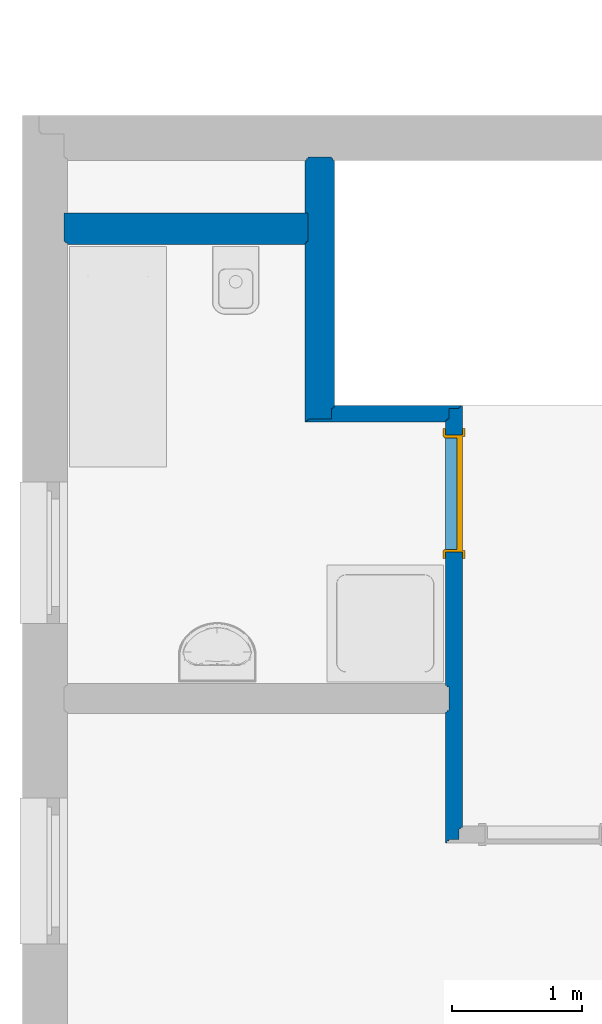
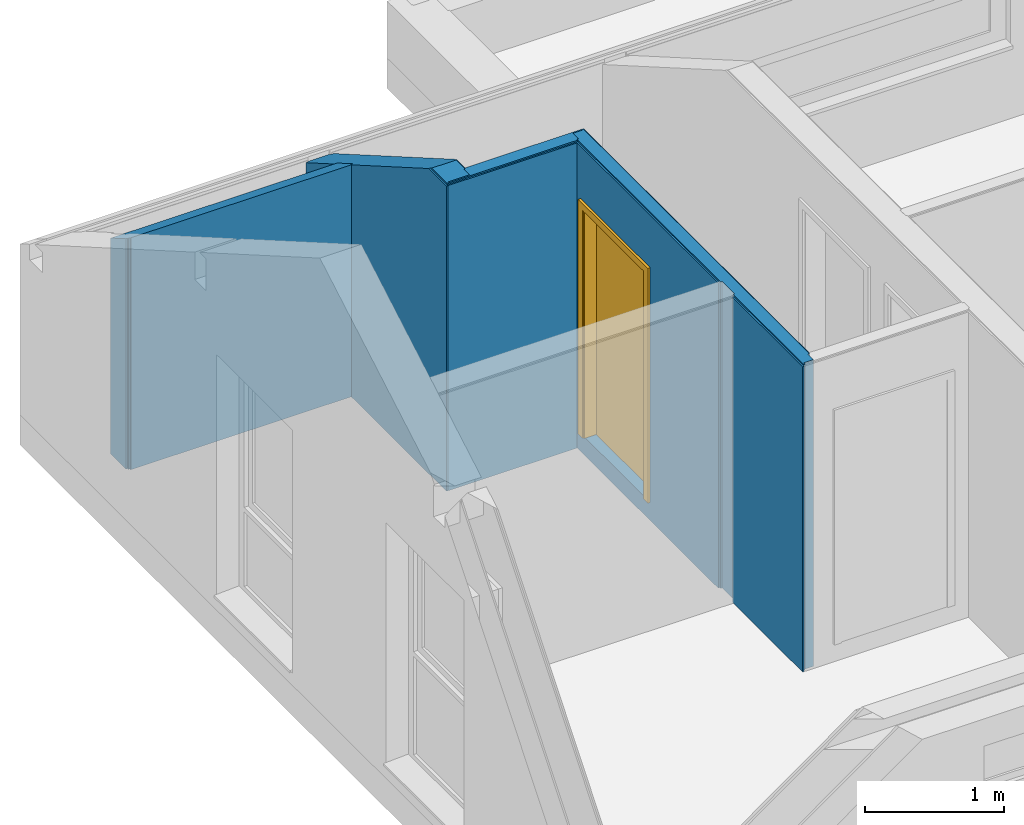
# One storey, part 4 of 7: 4 walls, 1 door, 1 opening.
"""IFC2X3 building model written with IfcOpenShell, lengths in millimetres."""

from ifc_helpers import new_model, entity, si_unit, converted_unit, derived_unit, money_unit, direction, frame, origin_with_axes, place, context, subcontext, project, spatial, faceted_brep, material, material_list, type_object, element, fill, save


model = new_model("IFC2X3")

# Units and contexts
model_context = context("Model", 3, precision=0.01, world=origin_with_axes(), true_north=direction((0.0, 1.0)))
body_context = subcontext(model_context, "Body", "Model", "MODEL_VIEW")
ifc_project = project(units=[si_unit("LENGTHUNIT", "METRE", prefix="MILLI"), si_unit("AREAUNIT", "SQUARE_METRE"), si_unit("VOLUMEUNIT", "CUBIC_METRE"), converted_unit("PLANEANGLEUNIT", "DEGREE", entity("IfcPlaneAngleMeasure", 0.0174532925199), si_unit("PLANEANGLEUNIT", "RADIAN"), dimensions=[0, 0, 0, 0, 0, 0, 0]), si_unit("SOLIDANGLEUNIT", "STERADIAN"), money_unit("USD"), converted_unit("TIMEUNIT", "Year", entity("IfcTimeMeasure", 31556926.0), si_unit("TIMEUNIT", "SECOND"), dimensions=[0, 0, 1, 0, 0, 0, 0]), si_unit("MASSUNIT", "GRAM", prefix="KILO"), si_unit("THERMODYNAMICTEMPERATUREUNIT", "DEGREE_CELSIUS"), si_unit("LUMINOUSINTENSITYUNIT", "LUMEN"), si_unit("ENERGYUNIT", "JOULE", prefix="MEGA"), derived_unit("THERMALCONDUCTANCEUNIT", [(si_unit("POWERUNIT", "WATT"), 1), (si_unit("LENGTHUNIT", "METRE"), -1), (si_unit("THERMODYNAMICTEMPERATUREUNIT", "KELVIN"), -1)]), derived_unit("SPECIFICHEATCAPACITYUNIT", [(si_unit("ENERGYUNIT", "JOULE"), 1), (si_unit("MASSUNIT", "GRAM", prefix="KILO"), -1), (si_unit("THERMODYNAMICTEMPERATUREUNIT", "KELVIN"), -1)]), derived_unit("MASSDENSITYUNIT", [(si_unit("MASSUNIT", "GRAM", prefix="KILO"), 1), (si_unit("VOLUMEUNIT", "CUBIC_METRE"), -1)])], contexts=[model_context])

# Site, building, storey
site_placement = place(None, origin_with_axes())
site = spatial("IfcSite", under=ifc_project, at=site_placement, Name="Lokalizacja", CompositionType="ELEMENT")
building_placement = place(site_placement, origin_with_axes())
building = spatial("IfcBuilding", under=site, at=building_placement, Name="Budynek", CompositionType="ELEMENT")
storey_placement = place(building_placement, frame((0.0, 0.0, 2954.0), z_axis=(0.0, 0.0, 1.0), x_axis=(1.0, 0.0, 0.0)))
storey = spatial("IfcBuildingStorey", under=building, at=storey_placement, Name="DG", CompositionType="ELEMENT", Elevation=2954.0)

# Wall
ifc_material_1 = material(Name="Płyta GK")
ifc_material_2 = material(Name="Płyta OSB")
ifc_material_3 = material(Name="Drewno konstrukcyjne")
ifc_material_list_1 = material_list([ifc_material_1, ifc_material_2, ifc_material_3, ifc_material_2, ifc_material_1])
wall_type_1 = type_object("IfcWallType", Name="022- _dan_SD_130 130", PredefinedType="NOTDEFINED")
wall_1_placement = place(storey_placement, frame((3044.78748997, -1888.1417, -160.0), z_axis=(0.0, 0.0, 1.0), x_axis=(-1.0, 0.0, 0.0)))
element("IfcWall", 1, at=wall_1_placement, inside=storey, type_object=wall_type_1, material=ifc_material_list_1, Name="SW1", context=body_context, shape_type="Brep", body=[
    faceted_brep([(1201.78748997, 117.0, 2678.0), (130.0, 117.0, 2678.0), (130.0, 117.0, 0.0), (1201.78748997, 117.0, 0.0), (130.0, 130.0, 2678.0), (1201.78748997, 130.0, 2678.0), (130.0, 130.0, 0.0), (1201.78748997, 130.0, 0.0)], [[[0, 1, 2, 3]], [[4, 1, 0, 5]], [[1, 4, 6, 2]], [[7, 3, 2, 6]], [[5, 0, 3, 7]], [[4, 5, 7, 6]]]),
    faceted_brep([(1189.78748997, 117.0, 2690.0), (117.0, 117.0, 2690.0), (117.0, 105.0, 2690.0), (1189.78748997, 105.0, 2690.0), (1189.78748997, 117.0, 0.0), (117.0, 117.0, 0.0), (117.0, 105.0, 0.0), (1189.78748997, 105.0, 0.0)], [[[0, 1, 2, 3]], [[4, 5, 1, 0]], [[2, 1, 5, 6]], [[3, 2, 6, 7]], [[3, 7, 4, 0]], [[7, 6, 5, 4]]]),
    faceted_brep([(1009.78748997, 105.0, 2690.0), (105.0, 105.0, 2690.0), (105.0, 25.0, 2690.0), (1009.78748997, 25.0, 2690.0), (1009.78748997, 105.0, 0.0), (105.0, 105.0, 0.0), (105.0, 25.0, 0.0), (1009.78748997, 25.0, 0.0)], [[[0, 1, 2, 3]], [[4, 5, 1, 0]], [[2, 1, 5, 6]], [[3, 2, 6, 7]], [[3, 7, 4, 0]], [[7, 6, 5, 4]]]),
    faceted_brep([(997.787489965, 25.0, 2690.0), (25.0, 25.0, 2690.0), (25.0, 13.0, 2690.0), (997.787489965, 13.0, 2690.0), (997.787489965, 25.0, 0.0), (25.0, 25.0, 0.0), (25.0, 13.0, 0.0), (997.787489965, 13.0, 0.0)], [[[0, 1, 2, 3]], [[4, 5, 1, 0]], [[2, 1, 5, 6]], [[3, 2, 6, 7]], [[3, 7, 4, 0]], [[7, 6, 5, 4]]]),
    faceted_brep([(984.787489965, 0.0, 2678.0), (13.0, 0.0, 2678.0), (13.0, 0.0, 0.0), (984.787489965, 0.0, 0.0), (13.0, 13.0, 2678.0), (984.787489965, 13.0, 2678.0), (13.0, 13.0, 0.0), (984.787489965, 13.0, 0.0)], [[[0, 1, 2, 3]], [[4, 1, 0, 5]], [[1, 4, 6, 2]], [[7, 3, 2, 6]], [[5, 0, 3, 7]], [[4, 5, 7, 6]]]),
])

# Wall, opening, door
wall_2_placement = place(storey_placement, frame((3044.78748997, -5129.99907417, -160.0), z_axis=(0.0, 0.0, 1.0), x_axis=(0.0, 1.0, 0.0)))
wall_2 = element("IfcWall", 2, at=wall_2_placement, inside=storey, type_object=wall_type_1, material=ifc_material_list_1, Name="SW1", context=body_context, shape_type="Brep", body=[
    faceted_brep([(879.471077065, 130.0, 2678.0), (879.471077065, 117.0, 2678.0), (879.471077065, 117.0, 0.0), (879.471077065, 130.0, 0.0), (-130.0, 117.0, 2678.0), (-130.0, 130.0, 2678.0), (-130.0, 117.0, 0.0), (-130.0, 130.0, 0.0)], [[[0, 1, 2, 3]], [[4, 1, 0, 5]], [[1, 4, 6, 2]], [[3, 2, 6, 7]], [[5, 0, 3, 7]], [[4, 5, 7, 6]]]),
    faceted_brep([(3124.85737417, 130.0, 2678.0), (3124.85737417, 117.0, 2678.0), (3124.85737417, 117.0, 0.0), (3124.85737417, 130.0, 0.0), (1083.47107706, 117.0, 2678.0), (1083.47107706, 130.0, 2678.0), (1083.47107706, 117.0, 0.0), (1083.47107706, 130.0, 0.0)], [[[0, 1, 2, 3]], [[4, 1, 0, 5]], [[1, 4, 6, 2]], [[3, 2, 6, 7]], [[5, 0, 3, 7]], [[4, 5, 7, 6]]]),
    faceted_brep([(891.471077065, 117.0, 2690.0), (-117.0, 117.0, 2690.0), (-117.0, 105.0, 2690.0), (891.471077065, 105.0, 2690.0), (891.471077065, 117.0, 0.0), (-117.0, 117.0, 0.0), (-117.0, 105.0, 0.0), (891.471077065, 105.0, 0.0)], [[[0, 1, 2, 3]], [[4, 5, 1, 0]], [[2, 1, 5, 6]], [[3, 2, 6, 7]], [[3, 7, 4, 0]], [[7, 6, 5, 4]]]),
    faceted_brep([(3136.85737417, 117.0, 2690.0), (1071.47107706, 117.0, 2690.0), (1071.47107706, 105.0, 2690.0), (3136.85737417, 105.0, 2690.0), (3136.85737417, 117.0, 0.0), (1071.47107706, 117.0, 0.0), (1071.47107706, 105.0, 0.0), (3136.85737417, 105.0, 0.0)], [[[0, 1, 2, 3]], [[4, 5, 1, 0]], [[2, 1, 5, 6]], [[3, 2, 6, 7]], [[3, 7, 4, 0]], [[7, 6, 5, 4]]]),
    faceted_brep([(3216.85737417, 105.0, 2690.0), (-105.0, 105.0, 2690.0), (-105.0, 25.0, 2690.0), (3216.85737417, 25.0, 2690.0), (3216.85737417, 105.0, 0.0), (-105.0, 105.0, 0.0), (-105.0, 25.0, 0.0), (3216.85737417, 25.0, 0.0)], [[[0, 1, 2, 3]], [[4, 5, 1, 0]], [[2, 1, 5, 6]], [[3, 2, 6, 7]], [[3, 7, 4, 0]], [[7, 6, 5, 4]]]),
    faceted_brep([(3228.85737417, 25.0, 2690.0), (-25.0, 25.0, 2690.0), (-25.0, 13.0, 2690.0), (3228.85737417, 13.0, 2690.0), (3228.85737417, 25.0, 0.0), (-25.0, 25.0, 0.0), (-25.0, 13.0, 0.0), (3228.85737417, 13.0, 0.0)], [[[0, 1, 2, 3]], [[4, 5, 1, 0]], [[2, 1, 5, 6]], [[3, 2, 6, 7]], [[3, 7, 4, 0]], [[7, 6, 5, 4]]]),
    faceted_brep([(3241.85737417, 13.0, 2678.0), (3241.85737417, 0.0, 2678.0), (3241.85737417, 0.0, 0.0), (3241.85737417, 13.0, 0.0), (-13.0, 0.0, 2678.0), (-13.0, 13.0, 2678.0), (-13.0, 0.0, 0.0), (-13.0, 13.0, 0.0)], [[[0, 1, 2, 3]], [[4, 1, 0, 5]], [[1, 4, 6, 2]], [[3, 2, 6, 7]], [[5, 0, 3, 7]], [[4, 5, 7, 6]]]),
])
opening_placement = place(wall_2_placement, frame((2561.85520282, 0.0, 160.0), z_axis=(0.0, 0.0, 1.0), x_axis=(1.0, 0.0, 0.0)))
opening = element("IfcOpeningElement", 3, at=opening_placement, cuts=wall_2, Name="D4", context=body_context, shape_type="Brep", body=[
    faceted_brep([(450.0, -260.0, 2010.0), (450.0, -260.0, 0.0), (450.0, 130.0, 0.0), (450.0, 130.0, 2010.0), (-450.0, -260.0, 2010.0), (-450.0, -260.0, 0.0), (-450.0, 130.0, 0.0), (-450.0, 130.0, 2010.0)], [[[0, 1, 2, 3]], [[0, 4, 5, 1]], [[1, 5, 6, 2]], [[3, 2, 6, 7]], [[4, 0, 3, 7]], [[5, 4, 7, 6]]]),
    faceted_brep([(500.0, 130.0, 2060.0), (500.0, 130.0, 0.0), (500.0, 260.0, 0.0), (500.0, 260.0, 2060.0), (-500.0, 130.0, 2060.0), (-500.0, 130.0, 0.0), (-500.0, 260.0, 0.0), (-500.0, 260.0, 2060.0)], [[[0, 1, 2, 3]], [[0, 4, 5, 1]], [[1, 5, 6, 2]], [[3, 2, 6, 7]], [[4, 0, 3, 7]], [[5, 4, 7, 6]]]),
    faceted_brep([(500.0, 0.0, 0.0), (500.0, 0.0, 2060.0), (500.0, -130.0, 2060.0), (500.0, -130.0, 0.0), (-500.0, 0.0, 0.0), (-500.0, 0.0, 2060.0), (-500.0, -130.0, 2060.0), (-500.0, -130.0, 0.0)], [[[0, 1, 2, 3]], [[0, 4, 5, 1]], [[1, 5, 6, 2]], [[3, 2, 6, 7]], [[4, 0, 3, 7]], [[5, 4, 7, 6]]]),
])
door_style = type_object("IfcDoorStyle", Name="Drzwi 24", ConstructionType="NOTDEFINED", OperationType="SINGLE_SWING_LEFT", ParameterTakesPrecedence=False, Sizeable=False)
door_placement = place(opening_placement, frame((450.0, 0.0, 0.0), z_axis=(0.0, 0.0, 1.0), x_axis=(-1.0, 0.0, 0.0)))
door = element("IfcDoor", 4, at=door_placement, inside=storey, type_object=door_style, Name="D4", OverallHeight=2010.0, OverallWidth=900.0, context=body_context, shape_type="Brep", body=[
    faceted_brep([(950.0, -150.0, 0.0), (890.0, -150.0, 0.0), (890.0, -130.0, 0.0), (950.0, -130.0, 0.0), (950.0, -150.0, 2060.0), (890.0, -150.0, 2000.0), (890.0, -130.0, 2000.0), (950.0, -130.0, 2060.0)], [[[0, 1, 2, 3]], [[0, 4, 5, 1]], [[1, 5, 6, 2]], [[3, 2, 6, 7]], [[4, 0, 3, 7]], [[5, 4, 7, 6]]]),
    faceted_brep([(-50.0, -150.0, 2060.0), (10.0, -150.0, 2000.0), (10.0, -130.0, 2000.0), (-50.0, -130.0, 2060.0), (-50.0, -150.0, 0.0), (10.0, -150.0, 0.0), (10.0, -130.0, 0.0), (-50.0, -130.0, 0.0)], [[[0, 1, 2, 3]], [[0, 4, 5, 1]], [[1, 5, 6, 2]], [[3, 2, 6, 7]], [[4, 0, 3, 7]], [[5, 4, 7, 6]]]),
    faceted_brep([(950.0, -150.0, 2060.0), (890.0, -150.0, 2000.0), (890.0, -130.0, 2000.0), (950.0, -130.0, 2060.0), (-50.0, -150.0, 2060.0), (10.0, -150.0, 2000.0), (10.0, -130.0, 2000.0), (-50.0, -130.0, 2060.0)], [[[0, 1, 2, 3]], [[0, 4, 5, 1]], [[1, 5, 6, 2]], [[3, 2, 6, 7]], [[4, 0, 3, 7]], [[5, 4, 7, 6]]]),
    faceted_brep([(950.0, 20.0, 0.0), (950.0, 0.0, 0.0), (890.0, 0.0, 0.0), (890.0, 20.0, 0.0), (950.0, 20.0, 2060.0), (950.0, 0.0, 2060.0), (890.0, 0.0, 2000.0), (890.0, 20.0, 2000.0)], [[[0, 1, 2, 3]], [[4, 5, 1, 0]], [[1, 5, 6, 2]], [[3, 2, 6, 7]], [[0, 3, 7, 4]], [[7, 6, 5, 4]]]),
    faceted_brep([(-50.0, 20.0, 2060.0), (-50.0, 0.0, 2060.0), (10.0, 0.0, 2000.0), (10.0, 20.0, 2000.0), (-50.0, 20.0, 0.0), (-50.0, 0.0, 0.0), (10.0, 0.0, 0.0), (10.0, 20.0, 0.0)], [[[0, 1, 2, 3]], [[4, 5, 1, 0]], [[1, 5, 6, 2]], [[3, 2, 6, 7]], [[0, 3, 7, 4]], [[7, 6, 5, 4]]]),
    faceted_brep([(950.0, 20.0, 2060.0), (950.0, 0.0, 2060.0), (890.0, 0.0, 2000.0), (890.0, 20.0, 2000.0), (-50.0, 20.0, 2060.0), (-50.0, 0.0, 2060.0), (10.0, 0.0, 2000.0), (10.0, 20.0, 2000.0)], [[[0, 1, 2, 3]], [[4, 5, 1, 0]], [[1, 5, 6, 2]], [[3, 2, 6, 7]], [[0, 3, 7, 4]], [[7, 6, 5, 4]]]),
    faceted_brep([(900.0, 0.0, 0.0), (900.0, -140.0, 0.0), (880.0, -140.0, 0.0), (880.0, 0.0, 0.0), (900.0, 0.0, 1990.0), (900.0, -140.0, 1990.0), (880.0, -140.0, 1990.0), (880.0, 0.0, 1990.0)], [[[0, 1, 2, 3]], [[4, 5, 1, 0]], [[1, 5, 6, 2]], [[3, 2, 6, 7]], [[0, 3, 7, 4]], [[7, 6, 5, 4]]]),
    faceted_brep([(0.0, 0.0, 0.0), (0.0, -140.0, 0.0), (0.0, -140.0, 1990.0), (0.0, 0.0, 1990.0), (20.0, 0.0, 0.0), (20.0, -140.0, 0.0), (20.0, -140.0, 1990.0), (20.0, 0.0, 1990.0)], [[[0, 1, 2, 3]], [[4, 5, 1, 0]], [[1, 5, 6, 2]], [[3, 2, 6, 7]], [[0, 3, 7, 4]], [[7, 6, 5, 4]]]),
    faceted_brep([(900.0, 0.0, 2010.0), (900.0, -140.0, 2010.0), (900.0, -140.0, 1990.0), (900.0, 0.0, 1990.0), (0.0, 0.0, 2010.0), (0.0, -140.0, 2010.0), (0.0, -140.0, 1990.0), (20.0, -140.0, 1990.0), (880.0, -140.0, 1990.0), (880.0, 0.0, 1990.0), (20.0, 0.0, 1990.0), (0.0, 0.0, 1990.0)], [[[0, 1, 2, 3]], [[4, 5, 1, 0]], [[1, 5, 6, 7, 8, 2]], [[3, 2, 8, 9]], [[0, 3, 9, 10, 11, 4]], [[11, 6, 5, 4]], [[10, 7, 6, 11]], [[9, 8, 7, 10]]]),
    faceted_brep([(20.0, 0.0, 0.0), (880.0, 0.0, 0.0), (880.0, -40.0, 0.0), (20.0, -40.0, 0.0), (20.0, 0.0, 1990.0), (880.0, 0.0, 1990.0), (880.0, -40.0, 1990.0), (20.0, -40.0, 1990.0)], [[[0, 1, 2, 3]], [[0, 4, 5, 1]], [[1, 5, 6, 2]], [[3, 2, 6, 7]], [[4, 0, 3, 7]], [[5, 4, 7, 6]]]),
])
fill(opening, door)

# Walls
wall_type_2 = type_object("IfcWallType", Name="025- _dan_SW_230 230", PredefinedType="NOTDEFINED")
wall_3_placement = place(storey_placement, frame((1830.0, 1.16646498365e-09, -160.0), z_axis=(0.0, 0.0, 1.0), x_axis=(0.0, -1.0, 0.0)))
element("IfcWall", 5, at=wall_3_placement, inside=storey, type_object=wall_type_2, material=ifc_material_list_1, Name="SW4", context=body_context, shape_type="Brep", body=[
    faceted_brep([(1763.22772146, 229.999999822, 2678.0), (1901.1417, 229.999999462, 2678.0), (1901.1417, 230.0, 0.0), (0.0, 230.0, 0.0), (0.0, 229.999994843, 1660.00000037), (1763.22772146, 216.999999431, 2678.0), (1901.1417, 216.999999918, 2678.0), (1901.1417, 217.0, 0.0), (0.0, 217.0, 0.0), (0.0, 216.99999921, 1660.00000037)], [[[0, 1, 2, 3, 4]], [[1, 0, 5, 6]], [[1, 6, 7, 2]], [[7, 8, 3, 2]], [[8, 9, 4, 3]], [[4, 9, 5, 0]], [[9, 8, 7, 6, 5]]]),
    faceted_brep([(-13.0, 217.0, 0.0), (-13.0, 216.999999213, 1652.49444687), (1784.01233116, 216.999999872, 2690.0), (1913.1417, 216.999999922, 2690.0), (1913.1417, 217.0, 0.0), (-13.0, 205.0, 0.0), (-13.0, 205.0, 1652.49444687), (1784.01233116, 205.0, 2690.0), (1913.1417, 205.0, 2690.0), (1913.1417, 205.0, 0.0)], [[[0, 1, 2, 3, 4]], [[1, 0, 5, 6]], [[2, 1, 6, 7]], [[3, 2, 7, 8]], [[4, 3, 8, 9]], [[5, 0, 4, 9]], [[6, 5, 9, 8, 7]]]),
    faceted_brep([(1993.1417, 205.0, 0.0), (-25.0, 205.0, 0.0), (-25.0, 205.0, 1645.56624364), (1784.01233116, 205.0, 2690.0), (1993.1417, 205.0, 2690.0), (1993.1417, 25.0, 0.0), (-25.0, 25.0, 0.0), (-25.0, 25.0, 1645.56624364), (1784.01233116, 25.0, 2690.0), (1993.1417, 25.0, 2690.0)], [[[0, 1, 2, 3, 4]], [[5, 6, 1, 0]], [[6, 7, 2, 1]], [[2, 7, 8, 3]], [[9, 4, 3, 8]], [[5, 0, 4, 9]], [[7, 6, 5, 9, 8]]]),
    faceted_brep([(-13.0, 25.0, 0.0), (-13.0, 25.0, 1652.49444687), (405.000159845, 25.0, 1893.82695168), (405.000159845, 25.0, 0.0), (-13.0, 13.0, 0.0), (-13.0, 12.9999956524, 1652.49444687), (405.000159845, 12.9999974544, 1893.82695168), (405.000159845, 13.0, 0.0)], [[[0, 1, 2, 3]], [[1, 0, 4, 5]], [[2, 1, 5, 6]], [[3, 2, 6, 7]], [[4, 0, 3, 7]], [[5, 4, 7, 6]]]),
    faceted_brep([(1784.01233116, 25.0, 2690.0), (2005.1417, 25.0, 2690.0), (2005.1417, 25.0, 0.0), (625.000159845, 25.0, 0.0), (625.000159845, 25.0, 2020.8440109), (1784.01233116, 12.9999992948, 2690.0), (2005.1417, 12.9999997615, 2690.0), (2005.1417, 13.0, 0.0), (625.000159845, 13.0, 0.0), (625.000159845, 12.9999976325, 2020.8440109)], [[[0, 1, 2, 3, 4]], [[5, 6, 1, 0]], [[1, 6, 7, 2]], [[3, 2, 7, 8]], [[4, 3, 8, 9]], [[0, 4, 9, 5]], [[8, 7, 6, 5, 9]]]),
    faceted_brep([(1763.22772146, 12.9999974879, 2678.0), (2018.1417, 12.9999997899, 2678.0), (2018.1417, 13.0, 0.0), (637.000159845, 13.0, 0.0), (637.000159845, 12.9999976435, 2027.77221413), (1763.22772146, 0.0, 2678.0), (2018.1417, 0.0, 2678.0), (2018.1417, 0.0, 0.0), (637.000159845, 0.0, 0.0), (637.000159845, 0.0, 2027.77221413)], [[[0, 1, 2, 3, 4]], [[1, 0, 5, 6]], [[1, 6, 7, 2]], [[8, 3, 2, 7]], [[4, 3, 8, 9]], [[4, 9, 5, 0]], [[9, 8, 7, 6, 5]]]),
    faceted_brep([(0.0, 13.0, 0.0), (0.0, 12.9999956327, 1660.00000037), (405.000159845, 12.9999974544, 1893.82695168), (405.000159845, 13.0, 0.0), (0.0, 0.0, 0.0), (0.0, 0.0, 1660.00000037), (405.000159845, 0.0, 1893.82695168), (405.000159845, 0.0, 0.0)], [[[0, 1, 2, 3]], [[1, 0, 4, 5]], [[2, 1, 5, 6]], [[3, 2, 6, 7]], [[4, 0, 3, 7]], [[5, 4, 7, 6]]]),
])
ifc_material_list_2 = material_list([ifc_material_3, ifc_material_2, ifc_material_1])
wall_type_3 = type_object("IfcWallType", Name="026- _dan_SW_245 245", PredefinedType="NOTDEFINED")
wall_4_placement = place(storey_placement, frame((2.73558953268e-09, -650.000159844, -160.0), z_axis=(0.0, 0.0, 1.0), x_axis=(1.0, 0.0, 0.0)))
element("IfcWall", 6, at=wall_4_placement, inside=storey, type_object=wall_type_3, material=ifc_material_list_2, Name="SW4", context=body_context, shape_type="Brep", body=[
    faceted_brep([(1855.0, 245.0, 0.0), (-24.9999998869, 245.0, 0.0), (-24.9999998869, 245.0, 1893.82695168), (1855.0, 245.0, 1893.82695168), (1855.0, 25.0, 0.0), (-24.9999998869, 25.0, 0.0), (-24.9999998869, 25.0, 2020.8440109), (1855.0, 25.0, 2020.8440109)], [[[0, 1, 2, 3]], [[4, 5, 1, 0]], [[2, 1, 5, 6]], [[2, 6, 7, 3]], [[7, 4, 0, 3]], [[6, 5, 4, 7]]]),
    faceted_brep([(1843.0, 25.0, 0.0), (-12.9999998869, 25.0, 0.0), (-12.9999998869, 25.0, 2020.8440109), (1843.0, 25.0, 2020.8440109), (1843.0, 13.0, 0.0), (-12.9999998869, 13.0, 0.0), (-12.9999998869, 13.0, 2027.77221413), (1843.0, 13.0, 2027.77221413)], [[[0, 1, 2, 3]], [[4, 5, 1, 0]], [[2, 1, 5, 6]], [[2, 6, 7, 3]], [[7, 4, 0, 3]], [[6, 5, 4, 7]]]),
    faceted_brep([(1830.0, 13.0, 0.0), (1.13088316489e-07, 13.0, 0.0), (1.13088316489e-07, 13.0, 2027.77221413), (1830.0, 13.0, 2027.77221413), (1830.0, 0.0, 0.0), (1.13088316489e-07, 0.0, 0.0), (1.13088316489e-07, 0.0, 2035.27776763), (1830.0, 0.0, 2035.27776763)], [[[0, 1, 2, 3]], [[4, 5, 1, 0]], [[2, 1, 5, 6]], [[2, 6, 7, 3]], [[7, 4, 0, 3]], [[6, 5, 4, 7]]]),
])

save(model, "model.ifc")
